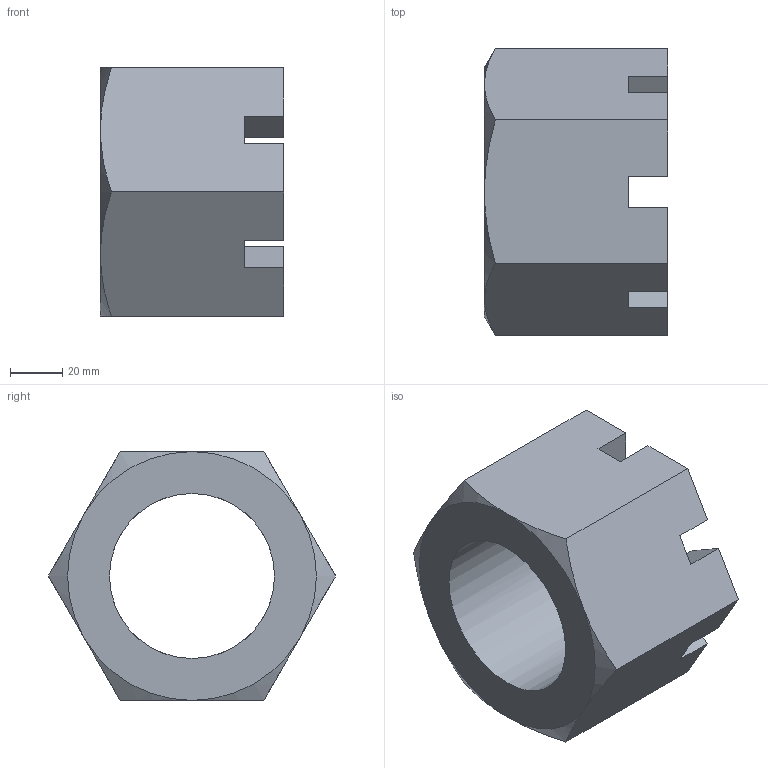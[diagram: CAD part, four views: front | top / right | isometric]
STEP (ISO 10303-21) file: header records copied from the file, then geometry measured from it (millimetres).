
FILE_DESCRIPTION(/* description */ (''),/* implementation_level */ '2;1');
FILE_NAME(/* name */ 'Slotted Nut.step',/* time_stamp */ '2026-10-06T11:30:57+05:30',/* author */ (''),/* organization */ (''),/* preprocessor_version */ 'ST-DEVELOPER v20.2',/* originating_system */ 'Autodesk Translation Framework v15.15.0.0',/* authorisation */ '');
FILE_SCHEMA (('AUTOMOTIVE_DESIGN { 1 0 10303 214 3 1 1 }'));
Length unit declared in the file: millimetre
Products named in the file (1): 2026-10-06-11-30-41-194
Bounding box: 70 x 109.7 x 95 mm (x, y, z)
Volume: 310486.8 mm3; surface area: 46738.8 mm2
Topology: 1 solids, 1 shells, 38 faces, 105 edges, 68 vertices
Faces by surface type: plane 31, cone 6, cylinder 1
Full cylindrical faces by diameter (mm): 63 x1
Entity records: 1226 total; most frequent: CARTESIAN_POINT 236, ORIENTED_EDGE 210, DIRECTION 191, EDGE_CURVE 105, LINE 73, VECTOR 73, VERTEX_POINT 68, AXIS2_PLACEMENT_3D 59
